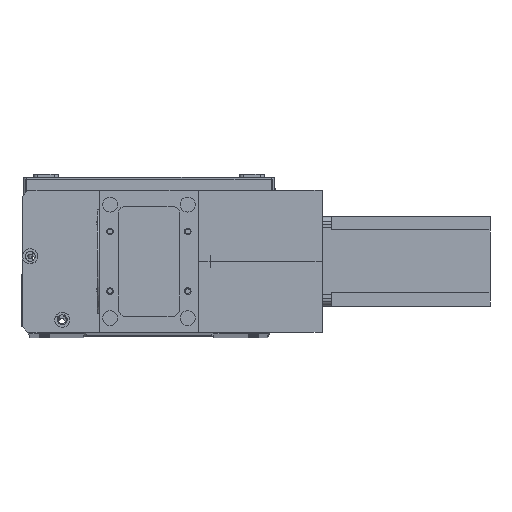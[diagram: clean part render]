
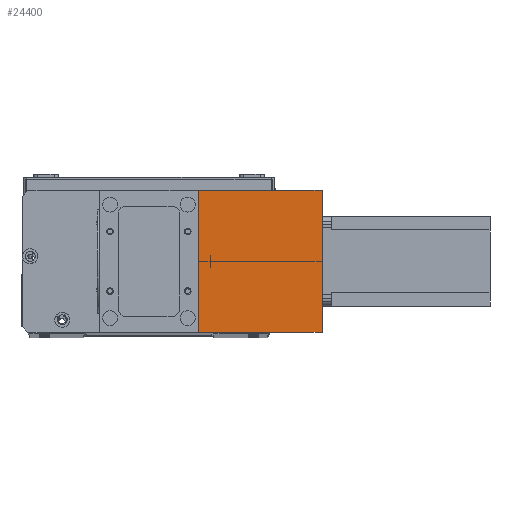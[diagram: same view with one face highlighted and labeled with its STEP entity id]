
A CAD part, top view. The second image highlights one B-rep face of the part: STEP entity #24400.
In plain terms, the highlighted planar face has unit normal (0, 0, 1) as drawn and (1, 0, 0) by its records, which use the part's own axes.
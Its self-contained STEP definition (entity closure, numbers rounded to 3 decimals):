
#376 = VECTOR ( 'NONE', #5624, 1000. ) ;
#825 = ORIENTED_EDGE ( 'NONE', *, *, #12703, .T. ) ;
#2366 = LINE ( 'NONE', #10480, #24804 ) ;
#3245 = VERTEX_POINT ( 'NONE', #15133 ) ;
#3686 = FACE_OUTER_BOUND ( 'NONE', #19378, .T. ) ;
#4329 = ORIENTED_EDGE ( 'NONE', *, *, #14960, .F. ) ;
#4434 = CARTESIAN_POINT ( 'NONE',  ( 82., 0., 0. ) ) ;
#4928 = DIRECTION ( 'NONE',  ( -1., 0., 0. ) ) ;
#5283 = CARTESIAN_POINT ( 'NONE',  ( 82., 0., 83. ) ) ;
#5624 = DIRECTION ( 'NONE',  ( 0., 1., 0. ) ) ;
#6588 = LINE ( 'NONE', #5283, #376 ) ;
#7114 = PLANE ( 'NONE',  #11522 ) ;
#7404 = LINE ( 'NONE', #25001, #23076 ) ;
#9531 = DIRECTION ( 'NONE',  ( 0., 1., 0. ) ) ;
#10480 = CARTESIAN_POINT ( 'NONE',  ( 82., 0., 0. ) ) ;
#11522 = AXIS2_PLACEMENT_3D ( 'NONE', #18221, #4928, #20574 ) ;
#11986 = EDGE_CURVE ( 'NONE', #12064, #14208, #15512, .T. ) ;
#12064 = VERTEX_POINT ( 'NONE', #12809 ) ;
#12370 = VERTEX_POINT ( 'NONE', #25830 ) ;
#12703 = EDGE_CURVE ( 'NONE', #14208, #12370, #2366, .T. ) ;
#12809 = CARTESIAN_POINT ( 'NONE',  ( 82., 0., 83. ) ) ;
#13065 = EDGE_CURVE ( 'NONE', #3245, #12370, #7404, .T. ) ;
#14208 = VERTEX_POINT ( 'NONE', #4434 ) ;
#14821 = VECTOR ( 'NONE', #18961, 1000. ) ;
#14960 = EDGE_CURVE ( 'NONE', #12064, #3245, #6588, .T. ) ;
#14979 = ORIENTED_EDGE ( 'NONE', *, *, #13065, .F. ) ;
#15133 = CARTESIAN_POINT ( 'NONE',  ( 82., 95., 83. ) ) ;
#15512 = LINE ( 'NONE', #19165, #14821 ) ;
#18221 = CARTESIAN_POINT ( 'NONE',  ( 82., 0., 83. ) ) ;
#18961 = DIRECTION ( 'NONE',  ( 0., 0., -1. ) ) ;
#19165 = CARTESIAN_POINT ( 'NONE',  ( 82., 0., 83. ) ) ;
#19378 = EDGE_LOOP ( 'NONE', ( #825, #14979, #4329, #25273 ) ) ;
#20574 = DIRECTION ( 'NONE',  ( 0., 0., 1. ) ) ;
#23076 = VECTOR ( 'NONE', #25036, 1000. ) ;
#24400 = ADVANCED_FACE ( 'NONE', ( #3686 ), #7114, .F. ) ;
#24804 = VECTOR ( 'NONE', #9531, 1000. ) ;
#25001 = CARTESIAN_POINT ( 'NONE',  ( 82., 95., 83. ) ) ;
#25036 = DIRECTION ( 'NONE',  ( 0., 0., -1. ) ) ;
#25273 = ORIENTED_EDGE ( 'NONE', *, *, #11986, .T. ) ;
#25830 = CARTESIAN_POINT ( 'NONE',  ( 82., 95., 0. ) ) ;
